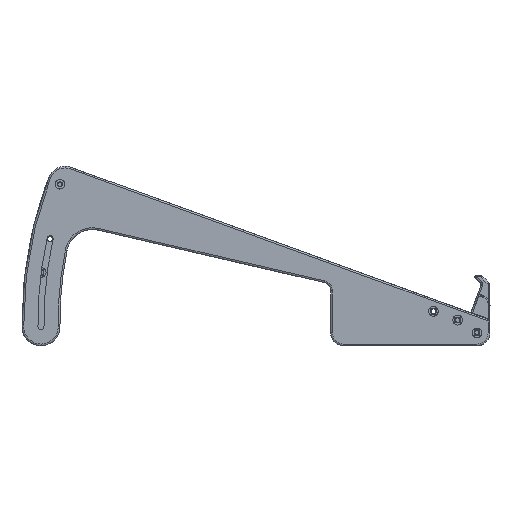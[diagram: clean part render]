
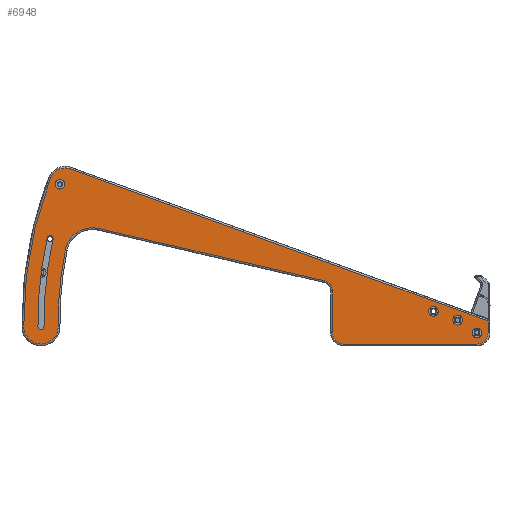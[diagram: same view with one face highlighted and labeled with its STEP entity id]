
A CAD part, left-side view. The second image highlights one B-rep face of the part: STEP entity #6948.
In plain terms, the highlighted planar face has unit normal (-1, 0, 0).
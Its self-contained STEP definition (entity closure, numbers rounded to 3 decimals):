
#49=FACE_BOUND('',#1167,.T.);
#50=FACE_BOUND('',#1168,.T.);
#51=FACE_BOUND('',#1169,.T.);
#52=FACE_BOUND('',#1170,.T.);
#53=FACE_BOUND('',#1171,.T.);
#301=CIRCLE('',#7387,2.85);
#302=CIRCLE('',#7389,2.85);
#314=CIRCLE('',#7418,9.);
#317=CIRCLE('',#7422,232.787);
#322=CIRCLE('',#7428,212.787);
#324=CIRCLE('',#7431,16.);
#328=CIRCLE('',#7437,6.);
#332=CIRCLE('',#7443,6.5);
#336=CIRCLE('',#7449,6.5);
#338=CIRCLE('',#7453,10.);
#344=CIRCLE('',#7467,2.8);
#345=CIRCLE('',#7468,2.8);
#346=CIRCLE('',#7469,224.537);
#347=CIRCLE('',#7470,1.75);
#348=CIRCLE('',#7471,221.037);
#349=CIRCLE('',#7472,1.75);
#741=FACE_OUTER_BOUND('',#1166,.T.);
#1166=EDGE_LOOP('',(#4849,#4850,#4851,#4852,#4853,#4854,#4855,#4856,#4857,
#4858,#4859,#4860,#4861));
#1167=EDGE_LOOP('',(#4862));
#1168=EDGE_LOOP('',(#4863));
#1169=EDGE_LOOP('',(#4864));
#1170=EDGE_LOOP('',(#4865));
#1171=EDGE_LOOP('',(#4866,#4867,#4868,#4869));
#1668=LINE('',#10725,#2303);
#1669=LINE('',#10758,#2304);
#1671=LINE('',#10770,#2306);
#1673=LINE('',#10782,#2308);
#1675=LINE('',#10791,#2310);
#2303=VECTOR('',#8423,10.);
#2304=VECTOR('',#8464,10.);
#2306=VECTOR('',#8478,10.);
#2308=VECTOR('',#8492,10.);
#2310=VECTOR('',#8504,10.);
#2903=VERTEX_POINT('',#10644);
#2904=VERTEX_POINT('',#10648);
#2927=VERTEX_POINT('',#10722);
#2928=VERTEX_POINT('',#10724);
#2930=VERTEX_POINT('',#10729);
#2932=VERTEX_POINT('',#10735);
#2933=VERTEX_POINT('',#10740);
#2936=VERTEX_POINT('',#10745);
#2938=VERTEX_POINT('',#10750);
#2940=VERTEX_POINT('',#10756);
#2942=VERTEX_POINT('',#10762);
#2944=VERTEX_POINT('',#10768);
#2946=VERTEX_POINT('',#10774);
#2948=VERTEX_POINT('',#10780);
#2950=VERTEX_POINT('',#10786);
#2961=VERTEX_POINT('',#10831);
#2962=VERTEX_POINT('',#10833);
#2963=VERTEX_POINT('',#10835);
#2964=VERTEX_POINT('',#10836);
#2965=VERTEX_POINT('',#10838);
#2966=VERTEX_POINT('',#10840);
#3586=EDGE_CURVE('',#2903,#2903,#301,.T.);
#3588=EDGE_CURVE('',#2904,#2904,#302,.T.);
#3626=EDGE_CURVE('',#2927,#2928,#1668,.T.);
#3629=EDGE_CURVE('',#2930,#2927,#314,.T.);
#3632=EDGE_CURVE('',#2932,#2930,#317,.T.);
#3637=EDGE_CURVE('',#2936,#2933,#322,.T.);
#3639=EDGE_CURVE('',#2938,#2936,#324,.T.);
#3642=EDGE_CURVE('',#2940,#2938,#1669,.T.);
#3645=EDGE_CURVE('',#2942,#2940,#328,.T.);
#3648=EDGE_CURVE('',#2944,#2942,#1671,.T.);
#3651=EDGE_CURVE('',#2946,#2944,#332,.T.);
#3654=EDGE_CURVE('',#2948,#2946,#1673,.T.);
#3657=EDGE_CURVE('',#2950,#2948,#336,.T.);
#3659=EDGE_CURVE('',#2928,#2950,#1675,.T.);
#3661=EDGE_CURVE('',#2933,#2932,#338,.T.);
#3680=EDGE_CURVE('',#2961,#2961,#344,.T.);
#3681=EDGE_CURVE('',#2962,#2962,#345,.T.);
#3682=EDGE_CURVE('',#2963,#2964,#346,.T.);
#3683=EDGE_CURVE('',#2965,#2964,#347,.T.);
#3684=EDGE_CURVE('',#2965,#2966,#348,.T.);
#3685=EDGE_CURVE('',#2963,#2966,#349,.T.);
#4849=ORIENTED_EDGE('',*,*,#3637,.F.);
#4850=ORIENTED_EDGE('',*,*,#3639,.F.);
#4851=ORIENTED_EDGE('',*,*,#3642,.F.);
#4852=ORIENTED_EDGE('',*,*,#3645,.F.);
#4853=ORIENTED_EDGE('',*,*,#3648,.F.);
#4854=ORIENTED_EDGE('',*,*,#3651,.F.);
#4855=ORIENTED_EDGE('',*,*,#3654,.F.);
#4856=ORIENTED_EDGE('',*,*,#3657,.F.);
#4857=ORIENTED_EDGE('',*,*,#3659,.F.);
#4858=ORIENTED_EDGE('',*,*,#3626,.F.);
#4859=ORIENTED_EDGE('',*,*,#3629,.F.);
#4860=ORIENTED_EDGE('',*,*,#3632,.F.);
#4861=ORIENTED_EDGE('',*,*,#3661,.F.);
#4862=ORIENTED_EDGE('',*,*,#3586,.T.);
#4863=ORIENTED_EDGE('',*,*,#3588,.T.);
#4864=ORIENTED_EDGE('',*,*,#3680,.T.);
#4865=ORIENTED_EDGE('',*,*,#3681,.T.);
#4866=ORIENTED_EDGE('',*,*,#3682,.T.);
#4867=ORIENTED_EDGE('',*,*,#3683,.F.);
#4868=ORIENTED_EDGE('',*,*,#3684,.T.);
#4869=ORIENTED_EDGE('',*,*,#3685,.F.);
#6682=PLANE('',#7466);
#6948=ADVANCED_FACE('',(#741,#49,#50,#51,#52,#53),#6682,.F.);
#7387=AXIS2_PLACEMENT_3D('',#10645,#8340,#8341);
#7389=AXIS2_PLACEMENT_3D('',#10649,#8345,#8346);
#7418=AXIS2_PLACEMENT_3D('',#10731,#8430,#8431);
#7422=AXIS2_PLACEMENT_3D('',#10737,#8438,#8439);
#7428=AXIS2_PLACEMENT_3D('',#10747,#8450,#8451);
#7431=AXIS2_PLACEMENT_3D('',#10752,#8456,#8457);
#7437=AXIS2_PLACEMENT_3D('',#10764,#8470,#8471);
#7443=AXIS2_PLACEMENT_3D('',#10776,#8484,#8485);
#7449=AXIS2_PLACEMENT_3D('',#10788,#8498,#8499);
#7453=AXIS2_PLACEMENT_3D('',#10794,#8508,#8509);
#7466=AXIS2_PLACEMENT_3D('',#10830,#8547,#8548);
#7467=AXIS2_PLACEMENT_3D('',#10832,#8549,#8550);
#7468=AXIS2_PLACEMENT_3D('',#10834,#8551,#8552);
#7469=AXIS2_PLACEMENT_3D('',#10837,#8553,#8554);
#7470=AXIS2_PLACEMENT_3D('',#10839,#8555,#8556);
#7471=AXIS2_PLACEMENT_3D('',#10841,#8557,#8558);
#7472=AXIS2_PLACEMENT_3D('',#10842,#8559,#8560);
#8340=DIRECTION('center_axis',(1.,0.,0.));
#8341=DIRECTION('ref_axis',(0.,-1.,0.));
#8345=DIRECTION('center_axis',(1.,0.,0.));
#8346=DIRECTION('ref_axis',(0.,-1.,0.));
#8423=DIRECTION('',(0.,-0.94,-0.342));
#8430=DIRECTION('center_axis',(1.,0.,0.));
#8431=DIRECTION('ref_axis',(0.,0.414,0.91));
#8438=DIRECTION('center_axis',(1.,0.,0.));
#8439=DIRECTION('ref_axis',(0.,0.984,0.177));
#8450=DIRECTION('center_axis',(-1.,0.,0.));
#8451=DIRECTION('ref_axis',(0.,0.996,0.093));
#8456=DIRECTION('center_axis',(-1.,0.,0.));
#8457=DIRECTION('ref_axis',(0.,0.542,0.841));
#8464=DIRECTION('',(0.,0.974,0.226));
#8470=DIRECTION('center_axis',(-1.,0.,0.));
#8471=DIRECTION('ref_axis',(0.,-0.783,0.622));
#8478=DIRECTION('',(0.,0.,1.));
#8484=DIRECTION('center_axis',(1.,0.,0.));
#8485=DIRECTION('ref_axis',(0.,0.707,-0.707));
#8492=DIRECTION('',(0.,1.,0.));
#8498=DIRECTION('center_axis',(1.,0.,0.));
#8499=DIRECTION('ref_axis',(0.,-0.707,-0.707));
#8504=DIRECTION('',(0.,0.,-1.));
#8508=DIRECTION('center_axis',(1.,0.,0.));
#8509=DIRECTION('ref_axis',(0.,-0.012,-1.));
#8547=DIRECTION('center_axis',(1.,0.,0.));
#8548=DIRECTION('ref_axis',(0.,1.,0.));
#8549=DIRECTION('center_axis',(1.,0.,0.));
#8550=DIRECTION('ref_axis',(0.,-1.,0.));
#8551=DIRECTION('center_axis',(1.,0.,0.));
#8552=DIRECTION('ref_axis',(0.,-1.,0.));
#8553=DIRECTION('center_axis',(1.,0.,0.));
#8554=DIRECTION('ref_axis',(0.,0.933,0.359));
#8555=DIRECTION('center_axis',(-1.,0.,0.));
#8556=DIRECTION('ref_axis',(0.,-1.,0.));
#8557=DIRECTION('center_axis',(-1.,0.,0.));
#8558=DIRECTION('ref_axis',(0.,-1.,0.));
#8559=DIRECTION('center_axis',(-1.,0.,0.));
#8560=DIRECTION('ref_axis',(0.,-1.,0.));
#10644=CARTESIAN_POINT('',(-185.,-98.15,20.));
#10645=CARTESIAN_POINT('Origin',(-185.,-101.,20.));
#10648=CARTESIAN_POINT('',(-185.,-112.25,14.882));
#10649=CARTESIAN_POINT('Origin',(-185.,-115.1,14.882));
#10722=CARTESIAN_POINT('',(-185.,109.549,102.588));
#10724=CARTESIAN_POINT('',(-185.,-132.787,14.385));
#10725=CARTESIAN_POINT('',(-185.,-111.533,22.121));
#10729=CARTESIAN_POINT('',(-185.,121.025,97.366));
#10731=CARTESIAN_POINT('Origin',(-185.,112.627,94.131));
#10735=CARTESIAN_POINT('',(-185.,136.571,10.88));
#10737=CARTESIAN_POINT('Origin',(-185.,-96.199,13.681));
#10740=CARTESIAN_POINT('',(-185.,116.572,11.12));
#10745=CARTESIAN_POINT('',(-185.,112.426,55.56));
#10747=CARTESIAN_POINT('Origin',(-185.,-96.199,13.681));
#10750=CARTESIAN_POINT('',(-185.,93.126,67.998));
#10752=CARTESIAN_POINT('Origin',(-185.,96.739,52.411));
#10756=CARTESIAN_POINT('',(-185.,-37.855,37.64));
#10758=CARTESIAN_POINT('',(-185.,-3.066,45.703));
#10762=CARTESIAN_POINT('',(-185.,-42.5,31.795));
#10764=CARTESIAN_POINT('Origin',(-185.,-36.5,31.795));
#10768=CARTESIAN_POINT('',(-185.,-42.501,7.498));
#10770=CARTESIAN_POINT('',(-185.,-42.5,15.398));
#10774=CARTESIAN_POINT('',(-185.,-49.001,0.998));
#10776=CARTESIAN_POINT('Origin',(-185.,-49.001,7.498));
#10780=CARTESIAN_POINT('',(-185.,-126.287,1.));
#10782=CARTESIAN_POINT('',(-185.,-87.644,0.999));
#10786=CARTESIAN_POINT('',(-185.,-132.787,7.5));
#10788=CARTESIAN_POINT('Origin',(-185.,-126.287,7.5));
#10791=CARTESIAN_POINT('',(-185.,-132.787,0.));
#10794=CARTESIAN_POINT('Origin',(-185.,126.572,11.));
#10830=CARTESIAN_POINT('Origin',(-185.,-133.787,0.));
#10831=CARTESIAN_POINT('',(-185.,-123.487,7.5));
#10832=CARTESIAN_POINT('Origin',(-185.,-126.287,7.5));
#10833=CARTESIAN_POINT('',(-185.,118.388,93.681));
#10834=CARTESIAN_POINT('Origin',(-185.,115.588,93.681));
#10835=CARTESIAN_POINT('',(-185.,128.321,10.979));
#10836=CARTESIAN_POINT('',(-185.,122.979,62.443));
#10837=CARTESIAN_POINT('Origin',(-185.,-96.199,13.681));
#10838=CARTESIAN_POINT('',(-185.,119.563,61.683));
#10839=CARTESIAN_POINT('Origin',(-185.,121.271,62.063));
#10840=CARTESIAN_POINT('',(-185.,124.822,11.021));
#10841=CARTESIAN_POINT('Origin',(-185.,-96.199,13.681));
#10842=CARTESIAN_POINT('Origin',(-185.,126.572,11.));
